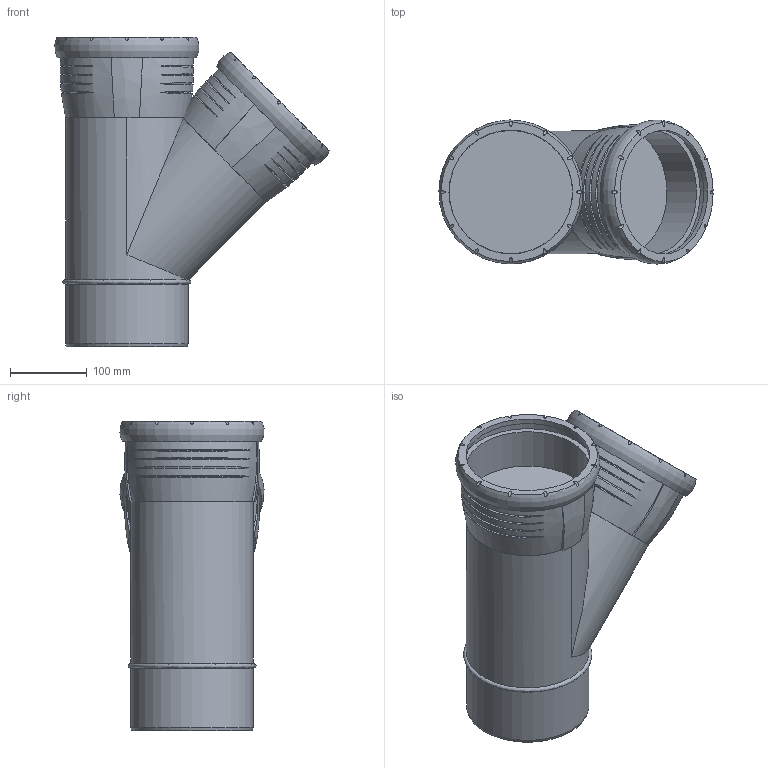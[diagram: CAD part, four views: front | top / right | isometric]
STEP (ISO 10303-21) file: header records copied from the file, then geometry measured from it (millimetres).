
FILE_DESCRIPTION(/* description */ (''),/* implementation_level */ '2;1');
FILE_NAME(/* name */ 'H:\Geberit-Teile\Export\Abzweig PP\stp\393737.stp',/* time_stamp */ '2017-02-13T13:21:43+01:00',/* author */ ('seihe2'),/* organization */ (''),/* preprocessor_version */ 'ST-DEVELOPER v15.2',/* originating_system */ 'Autodesk Inventor 2014',/* authorisation */ '');
FILE_SCHEMA (('AUTOMOTIVE_DESIGN { 1 0 10303 214 3 1 1 }'));
Length unit declared in the file: millimetre
Products named in the file (1): 393737
Bounding box: 358.31 x 188.24 x 404.11 mm (x, y, z)
Volume: 8799667.3 mm3; surface area: 612009.2 mm2
Topology: 5 solids, 5 shells, 107 faces, 250 edges, 177 vertices
Faces by surface type: bspline 45, cylinder 40, plane 19, torus 2, cone 1
Full cylindrical faces by diameter (mm): 126.565 x2, 148.25 x1, 160.25 x3, 161.2 x2, 161.7 x2, 174.9 x2
Entity records: 7676 total; most frequent: CARTESIAN_POINT 5478, ORIENTED_EDGE 454, DIRECTION 335, EDGE_CURVE 226, VERTEX_POINT 169, AXIS2_PLACEMENT_3D 167, EDGE_LOOP 149, B_SPLINE_CURVE_WITH_KNOTS 120
